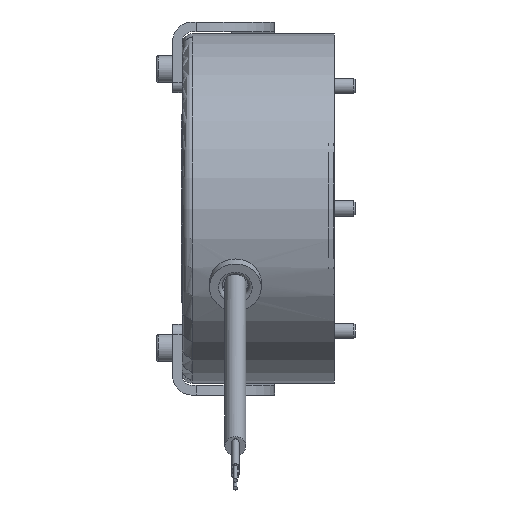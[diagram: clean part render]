
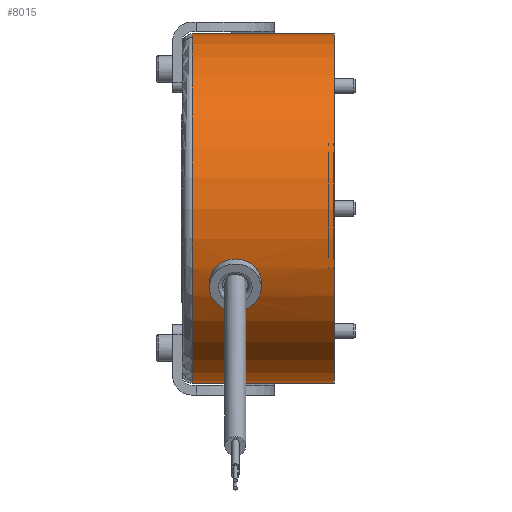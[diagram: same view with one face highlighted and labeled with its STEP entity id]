
A CAD part, front view. The second image highlights one B-rep face of the part: STEP entity #8015.
In plain terms, the highlighted cylindrical face has radius 44.5 mm (diameter 89 mm), a full revolution.
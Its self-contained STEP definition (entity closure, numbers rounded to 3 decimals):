
#173=B_SPLINE_CURVE_WITH_KNOTS('',3,(#12718,#12719,#12720,#12721,#12722,
#12723,#12724,#12725,#12726,#12727,#12728,#12729,#12730,#12731,#12732,#12733,
#12734,#12735),.UNSPECIFIED.,.F.,.F.,(4,2,2,2,2,2,2,2,4),(0.767,
0.959,1.15,1.342,1.533,1.725,
1.917,2.108,2.3),.UNSPECIFIED.);
#174=B_SPLINE_CURVE_WITH_KNOTS('',3,(#12738,#12739,#12740,#12741,#12742,
#12743,#12744,#12745,#12746,#12747,#12748,#12749,#12750,#12751,#12752,#12753,
#12754,#12755,#12756),.UNSPECIFIED.,.F.,.F.,(4,2,2,2,3,2,2,2,4),(2.3,
2.492,2.684,2.875,3.067,3.258,
3.449,3.642,3.834),.UNSPECIFIED.);
#328=FACE_BOUND('',#1125,.T.);
#654=FACE_OUTER_BOUND('',#1124,.T.);
#1124=EDGE_LOOP('',(#5481,#5482,#5483,#5484,#5485,#5486,#5487));
#1125=EDGE_LOOP('',(#5488,#5489,#5490,#5491,#5492,#5493));
#1609=LINE('',#12845,#2057);
#1610=LINE('',#12851,#2058);
#1611=LINE('',#12852,#2059);
#2057=VECTOR('',#9912,44.5);
#2058=VECTOR('',#9919,10.);
#2059=VECTOR('',#9920,10.);
#2563=CIRCLE('',#8624,44.5);
#2564=CIRCLE('',#8625,44.5);
#2565=CIRCLE('',#8626,44.5);
#2566=CIRCLE('',#8627,44.5);
#2567=CIRCLE('',#8628,44.5);
#3105=VERTEX_POINT('',#12609);
#3106=VERTEX_POINT('',#12610);
#3107=VERTEX_POINT('',#12612);
#3108=VERTEX_POINT('',#12614);
#3127=VERTEX_POINT('',#12840);
#3128=VERTEX_POINT('',#12841);
#3129=VERTEX_POINT('',#12844);
#3130=VERTEX_POINT('',#12846);
#3131=VERTEX_POINT('',#12848);
#4001=EDGE_CURVE('',#3106,#3107,#173,.T.);
#4003=EDGE_CURVE('',#3107,#3106,#174,.T.);
#4018=EDGE_CURVE('',#3127,#3128,#2563,.T.);
#4019=EDGE_CURVE('',#3128,#3127,#2564,.T.);
#4020=EDGE_CURVE('',#3128,#3129,#1609,.T.);
#4021=EDGE_CURVE('',#3130,#3129,#2565,.T.);
#4022=EDGE_CURVE('',#3131,#3130,#2566,.T.);
#4023=EDGE_CURVE('',#3129,#3131,#2567,.T.);
#4024=EDGE_CURVE('',#3107,#3108,#1610,.T.);
#4025=EDGE_CURVE('',#3105,#3106,#1611,.T.);
#5481=ORIENTED_EDGE('',*,*,#4018,.F.);
#5482=ORIENTED_EDGE('',*,*,#4019,.F.);
#5483=ORIENTED_EDGE('',*,*,#4020,.T.);
#5484=ORIENTED_EDGE('',*,*,#4021,.F.);
#5485=ORIENTED_EDGE('',*,*,#4022,.F.);
#5486=ORIENTED_EDGE('',*,*,#4023,.F.);
#5487=ORIENTED_EDGE('',*,*,#4020,.F.);
#5488=ORIENTED_EDGE('',*,*,#4024,.T.);
#5489=ORIENTED_EDGE('',*,*,#4024,.F.);
#5490=ORIENTED_EDGE('',*,*,#4003,.T.);
#5491=ORIENTED_EDGE('',*,*,#4025,.F.);
#5492=ORIENTED_EDGE('',*,*,#4025,.T.);
#5493=ORIENTED_EDGE('',*,*,#4001,.T.);
#7324=CYLINDRICAL_SURFACE('',#8623,44.5);
#8015=ADVANCED_FACE('',(#654,#328),#7324,.T.);
#8623=AXIS2_PLACEMENT_3D('',#12839,#9906,#9907);
#8624=AXIS2_PLACEMENT_3D('',#12842,#9908,#9909);
#8625=AXIS2_PLACEMENT_3D('',#12843,#9910,#9911);
#8626=AXIS2_PLACEMENT_3D('',#12847,#9913,#9914);
#8627=AXIS2_PLACEMENT_3D('',#12849,#9915,#9916);
#8628=AXIS2_PLACEMENT_3D('',#12850,#9917,#9918);
#9906=DIRECTION('center_axis',(1.,0.,0.));
#9907=DIRECTION('ref_axis',(0.,1.,0.));
#9908=DIRECTION('center_axis',(1.,0.,0.));
#9909=DIRECTION('ref_axis',(0.,1.,0.));
#9910=DIRECTION('center_axis',(1.,0.,0.));
#9911=DIRECTION('ref_axis',(0.,1.,0.));
#9912=DIRECTION('',(-1.,0.,0.));
#9913=DIRECTION('center_axis',(-1.,0.,0.));
#9914=DIRECTION('ref_axis',(0.,-1.,0.));
#9915=DIRECTION('center_axis',(-1.,0.,0.));
#9916=DIRECTION('ref_axis',(0.,-1.,0.));
#9917=DIRECTION('center_axis',(-1.,0.,0.));
#9918=DIRECTION('ref_axis',(0.,-1.,0.));
#9919=DIRECTION('',(1.,0.,0.));
#9920=DIRECTION('',(1.,0.,0.));
#12609=CARTESIAN_POINT('',(-31.8,-40.331,-18.807));
#12610=CARTESIAN_POINT('',(-30.3,-40.331,-18.807));
#12612=CARTESIAN_POINT('',(-20.1,-40.331,-18.807));
#12614=CARTESIAN_POINT('',(-18.6,-40.331,-18.807));
#12718=CARTESIAN_POINT('Ctrl Pts',(-30.3,-40.331,-18.807));
#12719=CARTESIAN_POINT('Ctrl Pts',(-30.3,-40.601,-18.227));
#12720=CARTESIAN_POINT('Ctrl Pts',(-30.171,-40.875,-17.603));
#12721=CARTESIAN_POINT('Ctrl Pts',(-29.647,-41.354,-16.446));
#12722=CARTESIAN_POINT('Ctrl Pts',(-29.253,-41.56,
-15.914));
#12723=CARTESIAN_POINT('Ctrl Pts',(-28.346,-41.873,
-15.069));
#12724=CARTESIAN_POINT('Ctrl Pts',(-27.773,-42.002,
-14.701));
#12725=CARTESIAN_POINT('Ctrl Pts',(-26.52,-42.17,
-14.212));
#12726=CARTESIAN_POINT('Ctrl Pts',(-25.838,-42.21,
-14.091));
#12727=CARTESIAN_POINT('Ctrl Pts',(-24.562,-42.21,
-14.091));
#12728=CARTESIAN_POINT('Ctrl Pts',(-23.88,-42.17,
-14.212));
#12729=CARTESIAN_POINT('Ctrl Pts',(-22.627,-42.002,
-14.701));
#12730=CARTESIAN_POINT('Ctrl Pts',(-22.054,-41.873,
-15.069));
#12731=CARTESIAN_POINT('Ctrl Pts',(-21.147,-41.56,
-15.914));
#12732=CARTESIAN_POINT('Ctrl Pts',(-20.753,-41.354,-16.446));
#12733=CARTESIAN_POINT('Ctrl Pts',(-20.229,-40.875,-17.603));
#12734=CARTESIAN_POINT('Ctrl Pts',(-20.1,-40.601,-18.227));
#12735=CARTESIAN_POINT('Ctrl Pts',(-20.1,-40.331,-18.807));
#12738=CARTESIAN_POINT('Ctrl Pts',(-20.1,-40.331,-18.807));
#12739=CARTESIAN_POINT('Ctrl Pts',(-20.1,-40.06,-19.386));
#12740=CARTESIAN_POINT('Ctrl Pts',(-20.229,-39.759,-19.997));
#12741=CARTESIAN_POINT('Ctrl Pts',(-20.753,-39.181,
-21.108));
#12742=CARTESIAN_POINT('Ctrl Pts',(-21.147,-38.905,
-21.608));
#12743=CARTESIAN_POINT('Ctrl Pts',(-22.054,-38.459,
-22.39));
#12744=CARTESIAN_POINT('Ctrl Pts',(-22.627,-38.26,
-22.726));
#12745=CARTESIAN_POINT('Ctrl Pts',(-23.88,-37.994,
-23.169));
#12746=CARTESIAN_POINT('Ctrl Pts',(-24.562,-37.927,
-23.277));
#12747=CARTESIAN_POINT('Ctrl Pts',(-25.2,-37.927,-23.277));
#12748=CARTESIAN_POINT('Ctrl Pts',(-25.837,-37.927,
-23.277));
#12749=CARTESIAN_POINT('Ctrl Pts',(-26.517,-37.993,
-23.169));
#12750=CARTESIAN_POINT('Ctrl Pts',(-27.77,-38.259,
-22.727));
#12751=CARTESIAN_POINT('Ctrl Pts',(-28.342,-38.458,
-22.393));
#12752=CARTESIAN_POINT('Ctrl Pts',(-29.25,-38.903,
-21.611));
#12753=CARTESIAN_POINT('Ctrl Pts',(-29.645,-39.179,
-21.111));
#12754=CARTESIAN_POINT('Ctrl Pts',(-30.17,-39.758,-19.999));
#12755=CARTESIAN_POINT('Ctrl Pts',(-30.3,-40.06,-19.387));
#12756=CARTESIAN_POINT('Ctrl Pts',(-30.3,-40.331,-18.807));
#12839=CARTESIAN_POINT('Origin',(-19.35,0.,0.));
#12840=CARTESIAN_POINT('',(0.,44.5,0.));
#12841=CARTESIAN_POINT('',(0.,-44.5,0.));
#12842=CARTESIAN_POINT('Origin',(0.,0.,0.));
#12843=CARTESIAN_POINT('Origin',(0.,0.,0.));
#12844=CARTESIAN_POINT('',(-36.2,-44.5,0.));
#12845=CARTESIAN_POINT('',(-19.35,-44.5,0.));
#12846=CARTESIAN_POINT('',(-36.2,44.5,0.));
#12847=CARTESIAN_POINT('Origin',(-36.2,0.,0.));
#12848=CARTESIAN_POINT('',(-36.2,0.,44.5));
#12849=CARTESIAN_POINT('Origin',(-36.2,0.,0.));
#12850=CARTESIAN_POINT('Origin',(-36.2,0.,0.));
#12851=CARTESIAN_POINT('',(-19.35,-40.331,-18.807));
#12852=CARTESIAN_POINT('',(-19.35,-40.331,-18.807));
